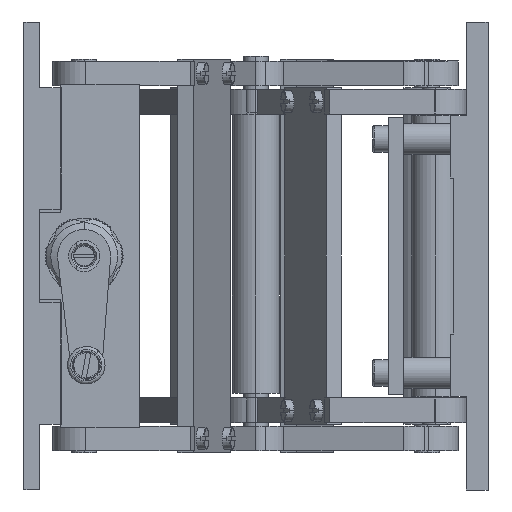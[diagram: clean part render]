
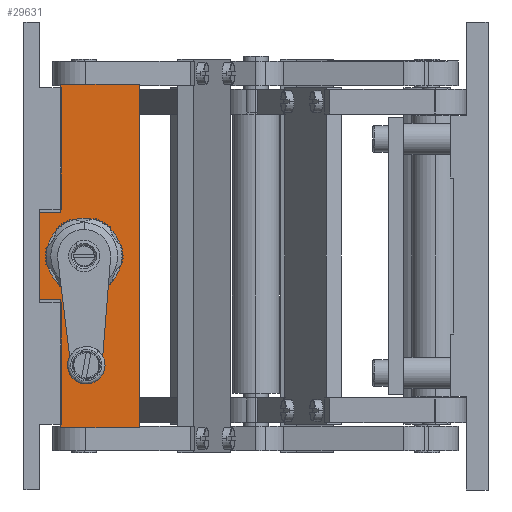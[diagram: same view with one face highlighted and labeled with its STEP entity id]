
A CAD part, left-side view. The second image highlights one B-rep face of the part: STEP entity #29631.
In plain terms, the highlighted planar face has unit normal (1, 0, 0).
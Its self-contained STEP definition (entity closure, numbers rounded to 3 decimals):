
#569 = CIRCLE ( 'NONE', #29580, 12.1 ) ;
#619 = CARTESIAN_POINT ( 'NONE',  ( -102.364, 143.777, -39.484 ) ) ;
#867 = ORIENTED_EDGE ( 'NONE', *, *, #30179, .T. ) ;
#1416 = DIRECTION ( 'NONE',  ( 1., 0., 0. ) ) ;
#1452 = VECTOR ( 'NONE', #19616, 1000. ) ;
#1562 = CIRCLE ( 'NONE', #12425, 12.1 ) ;
#1655 = DIRECTION ( 'NONE',  ( 0., 1., 0. ) ) ;
#2358 = CARTESIAN_POINT ( 'NONE',  ( -102.364, 136.977, -80.484 ) ) ;
#2504 = CARTESIAN_POINT ( 'NONE',  ( -102.364, 136.977, -11.484 ) ) ;
#3444 = VERTEX_POINT ( 'NONE', #2358 ) ;
#3579 = VECTOR ( 'NONE', #4061, 1000. ) ;
#3827 = DIRECTION ( 'NONE',  ( 0., -1., 0. ) ) ;
#4061 = DIRECTION ( 'NONE',  ( 0., 0., 1. ) ) ;
#4267 = CARTESIAN_POINT ( 'NONE',  ( -102.364, 111.777, 29.516 ) ) ;
#5079 = EDGE_CURVE ( 'NONE', #6227, #3444, #6593, .T. ) ;
#6227 = VERTEX_POINT ( 'NONE', #24364 ) ;
#6593 = LINE ( 'NONE', #29915, #13809 ) ;
#6740 = VERTEX_POINT ( 'NONE', #14227 ) ;
#6773 = ORIENTED_EDGE ( 'NONE', *, *, #13644, .T. ) ;
#7290 = CARTESIAN_POINT ( 'NONE',  ( -102.364, 143.777, -11.484 ) ) ;
#8273 = CARTESIAN_POINT ( 'NONE',  ( -102.364, 111.777, 29.516 ) ) ;
#8384 = VECTOR ( 'NONE', #32737, 1000. ) ;
#8461 = EDGE_LOOP ( 'NONE', ( #17872, #20245 ) ) ;
#8518 = DIRECTION ( 'NONE',  ( -1., 0., 0. ) ) ;
#9336 = LINE ( 'NONE', #25998, #8384 ) ;
#9983 = VECTOR ( 'NONE', #1655, 1000. ) ;
#10155 = DIRECTION ( 'NONE',  ( -1., 0., 0. ) ) ;
#10485 = VECTOR ( 'NONE', #3827, 1000. ) ;
#10581 = VERTEX_POINT ( 'NONE', #8273 ) ;
#10912 = CARTESIAN_POINT ( 'NONE',  ( -102.364, 129.477, -13.384 ) ) ;
#10913 = VERTEX_POINT ( 'NONE', #13624 ) ;
#11482 = DIRECTION ( 'NONE',  ( 0., 1., 0. ) ) ;
#12026 = VERTEX_POINT ( 'NONE', #2504 ) ;
#12386 = LINE ( 'NONE', #32524, #9983 ) ;
#12425 = AXIS2_PLACEMENT_3D ( 'NONE', #19791, #8518, #30165 ) ;
#12623 = CARTESIAN_POINT ( 'NONE',  ( -102.364, 136.977, -80.484 ) ) ;
#13402 = VERTEX_POINT ( 'NONE', #10912 ) ;
#13406 = CARTESIAN_POINT ( 'NONE',  ( -102.364, 111.777, -80.484 ) ) ;
#13624 = CARTESIAN_POINT ( 'NONE',  ( -102.364, 136.977, 29.516 ) ) ;
#13644 = EDGE_CURVE ( 'NONE', #3444, #17051, #14062, .T. ) ;
#13670 = ORIENTED_EDGE ( 'NONE', *, *, #21018, .T. ) ;
#13809 = VECTOR ( 'NONE', #11482, 1000. ) ;
#14062 = LINE ( 'NONE', #12623, #26700 ) ;
#14227 = CARTESIAN_POINT ( 'NONE',  ( -102.364, 129.477, -37.584 ) ) ;
#15792 = LINE ( 'NONE', #28449, #10485 ) ;
#16095 = CARTESIAN_POINT ( 'NONE',  ( -102.364, 143.777, -80.484 ) ) ;
#16282 = DIRECTION ( 'NONE',  ( 0., 0., -1. ) ) ;
#17051 = VERTEX_POINT ( 'NONE', #22514 ) ;
#17641 = LINE ( 'NONE', #16095, #3579 ) ;
#17872 = ORIENTED_EDGE ( 'NONE', *, *, #36137, .T. ) ;
#18265 = ORIENTED_EDGE ( 'NONE', *, *, #30300, .T. ) ;
#19539 = DIRECTION ( 'NONE',  ( 0., 0., -1. ) ) ;
#19616 = DIRECTION ( 'NONE',  ( 0., -1., 0. ) ) ;
#19791 = CARTESIAN_POINT ( 'NONE',  ( -102.364, 129.477, -25.484 ) ) ;
#20245 = ORIENTED_EDGE ( 'NONE', *, *, #37012, .T. ) ;
#21018 = EDGE_CURVE ( 'NONE', #33556, #36106, #17641, .T. ) ;
#21705 = FACE_OUTER_BOUND ( 'NONE', #37026, .T. ) ;
#21916 = EDGE_CURVE ( 'NONE', #12026, #10913, #9336, .T. ) ;
#22514 = CARTESIAN_POINT ( 'NONE',  ( -102.364, 136.977, -39.484 ) ) ;
#22593 = CARTESIAN_POINT ( 'NONE',  ( -102.364, 111.777, -80.484 ) ) ;
#24364 = CARTESIAN_POINT ( 'NONE',  ( -102.364, 111.777, -80.484 ) ) ;
#25398 = DIRECTION ( 'NONE',  ( 0., 0., 1. ) ) ;
#25909 = VECTOR ( 'NONE', #19539, 1000. ) ;
#25998 = CARTESIAN_POINT ( 'NONE',  ( -102.364, 136.977, -80.484 ) ) ;
#26004 = CARTESIAN_POINT ( 'NONE',  ( -102.364, 129.477, -25.484 ) ) ;
#26546 = FACE_BOUND ( 'NONE', #8461, .T. ) ;
#26700 = VECTOR ( 'NONE', #25398, 1000. ) ;
#28449 = CARTESIAN_POINT ( 'NONE',  ( -102.364, 111.777, -11.484 ) ) ;
#28896 = PLANE ( 'NONE',  #31057 ) ;
#29065 = LINE ( 'NONE', #4267, #1452 ) ;
#29580 = AXIS2_PLACEMENT_3D ( 'NONE', #26004, #10155, #31824 ) ;
#29631 = ADVANCED_FACE ( 'NONE', ( #21705, #26546 ), #28896, .T. ) ;
#29915 = CARTESIAN_POINT ( 'NONE',  ( -102.364, 111.777, -80.484 ) ) ;
#30165 = DIRECTION ( 'NONE',  ( 0., 0., 1. ) ) ;
#30179 = EDGE_CURVE ( 'NONE', #36106, #12026, #15792, .T. ) ;
#30300 = EDGE_CURVE ( 'NONE', #17051, #33556, #12386, .T. ) ;
#30565 = ORIENTED_EDGE ( 'NONE', *, *, #38171, .T. ) ;
#31057 = AXIS2_PLACEMENT_3D ( 'NONE', #13406, #1416, #16282 ) ;
#31824 = DIRECTION ( 'NONE',  ( 0., 0., 1. ) ) ;
#31977 = ORIENTED_EDGE ( 'NONE', *, *, #21916, .T. ) ;
#32158 = ORIENTED_EDGE ( 'NONE', *, *, #32267, .T. ) ;
#32267 = EDGE_CURVE ( 'NONE', #10581, #6227, #35572, .T. ) ;
#32293 = ORIENTED_EDGE ( 'NONE', *, *, #5079, .T. ) ;
#32524 = CARTESIAN_POINT ( 'NONE',  ( -102.364, 111.777, -39.484 ) ) ;
#32737 = DIRECTION ( 'NONE',  ( 0., 0., 1. ) ) ;
#33556 = VERTEX_POINT ( 'NONE', #619 ) ;
#35572 = LINE ( 'NONE', #22593, #25909 ) ;
#36106 = VERTEX_POINT ( 'NONE', #7290 ) ;
#36137 = EDGE_CURVE ( 'NONE', #13402, #6740, #1562, .T. ) ;
#37012 = EDGE_CURVE ( 'NONE', #6740, #13402, #569, .T. ) ;
#37026 = EDGE_LOOP ( 'NONE', ( #18265, #13670, #867, #31977, #30565, #32158, #32293, #6773 ) ) ;
#38171 = EDGE_CURVE ( 'NONE', #10913, #10581, #29065, .T. ) ;
